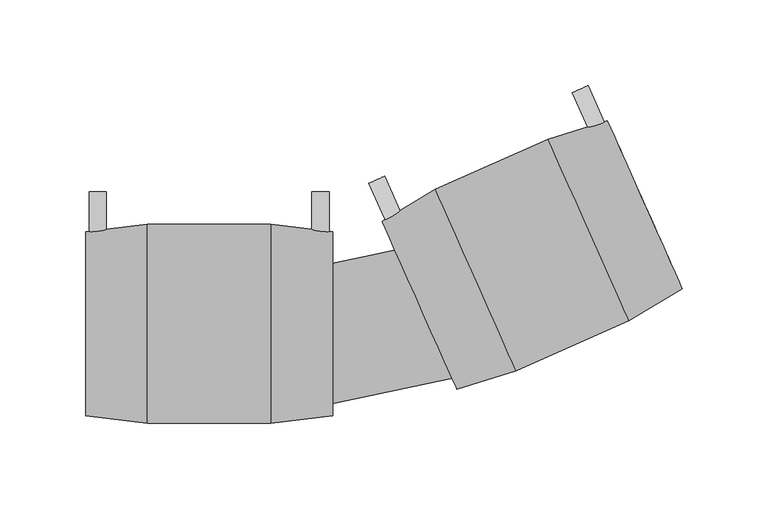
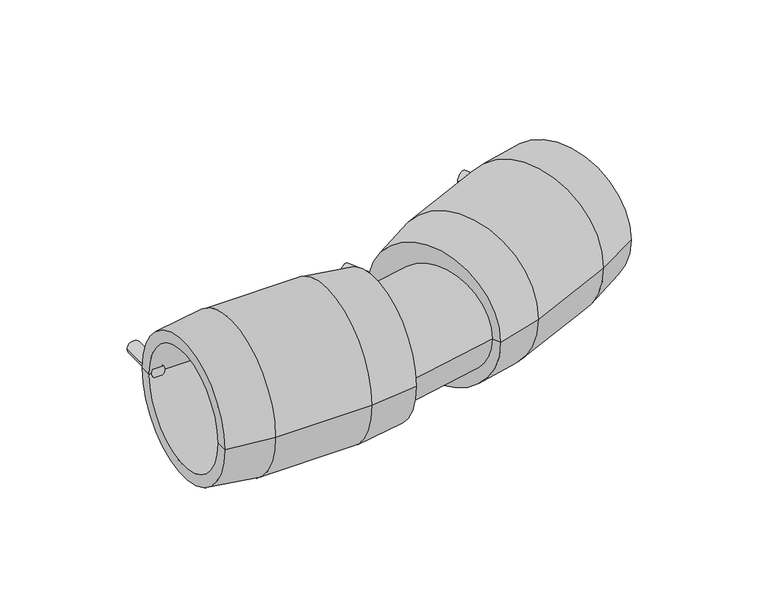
"""IFC4 building model written with IfcOpenShell, lengths in millimetres: pipe fitting geometry, Plumbing_Pipe-Fittings_Plasson_Adjustable-Elbow_4947C4 : Plumbing_Pipe-Fittings_Plasson_Adjustable-Elbow_4947C4."""

import ifcopenshell
import ifcopenshell.guid

model = None  # the IFC model being written
_history = None  # IfcOwnerHistory: only IFC2X3 demands one
_inside = {}  # id of a spatial element -> (the spatial element, [elements in it])
_under = {}  # id of a project, library or spatial element -> (it, [spatial elements below it])
_declared = {}  # id of a project -> (the project, [libraries it declares])
_typed = {}  # id of a type object -> (the type object, [elements of that type])
_made_of = {}  # id of a material, layer set ... -> (it, [elements and type objects made of it])


def new_model(schema):
    """Start an empty IFC model of exactly this schema.

    Asked for "IFC4X3", IfcOpenShell would pick the latest addendum, in which some entities
    have other attributes; the version numbers below select the first issue.
    IFC2X3 requires an IfcOwnerHistory on every rooted entity: one is made here for all.
    """
    global model, _history
    if schema == "IFC4X3":
        model = ifcopenshell.file(schema_version=(4, 3, 0, 0))
    else:
        model = ifcopenshell.file(schema=schema)
    _inside.clear()
    _under.clear()
    _declared.clear()
    _typed.clear()
    _made_of.clear()
    _history = None
    if model.schema == "IFC2X3":
        org = make("IfcOrganization", Name="unknown")
        user = make(
            "IfcPersonAndOrganization",
            ThePerson=make("IfcPerson", FamilyName="unknown"),
            TheOrganization=org,
        )
        app = make(
            "IfcApplication",
            ApplicationDeveloper=org,
            Version="unknown",
            ApplicationFullName="unknown",
            ApplicationIdentifier="unknown",
        )
        _history = make(
            "IfcOwnerHistory",
            OwningUser=user,
            OwningApplication=app,
            ChangeAction="ADDED",
            CreationDate=0,
        )
    return model


def make(cls, **values):
    """One entity of the class cls with the attributes given. An attribute that is None is left unset."""
    return model.create_entity(
        cls, **{name: value for name, value in values.items() if value is not None}
    )


def rooted(cls, **values):
    """An entity with a GlobalId (a new one), such as an element, a storey or a relation."""
    return make(cls, GlobalId=ifcopenshell.guid.new(), OwnerHistory=_history, **values)


def si_unit(unit_type, name, prefix=None):
    """IfcSIUnit, for example si_unit("LENGTHUNIT", "METRE", prefix="MILLI")."""
    return make("IfcSIUnit", UnitType=unit_type, Prefix=prefix, Name=name)


def assignment(units):
    """IfcUnitAssignment: the units of a project."""
    return None if units is None else make("IfcUnitAssignment", Units=units)


def point(xyz):
    """IfcCartesianPoint."""
    return None if xyz is None else make("IfcCartesianPoint", Coordinates=xyz)


def direction(xyz):
    """IfcDirection."""
    return None if xyz is None else make("IfcDirection", DirectionRatios=xyz)


def frame(location, z_axis=None, x_axis=None):
    """IfcAxis2Placement3D, a coordinate frame: its origin and axes. An axis left out is left unset."""
    return make(
        "IfcAxis2Placement3D",
        Location=point(location),
        Axis=direction(z_axis),
        RefDirection=direction(x_axis),
    )


def frame_2d(location, x_axis=None):
    """IfcAxis2Placement2D, a coordinate frame in the plane: its origin and x axis."""
    return make(
        "IfcAxis2Placement2D", Location=point(location), RefDirection=direction(x_axis)
    )


def origin():
    """The frame at (0, 0, 0) with its axes left unset."""
    return frame((0.0, 0.0, 0.0))


def place(relative_to, where):
    """IfcLocalPlacement: puts the frame where relative to a parent placement (None: the world)."""
    return make(
        "IfcLocalPlacement", PlacementRelTo=relative_to, RelativePlacement=where
    )


def context(
    kind, dimensions, precision=None, world=None, true_north=None, identifier=None
):
    """IfcGeometricRepresentationContext, for example the 3D "Model" context."""
    return make(
        "IfcGeometricRepresentationContext",
        ContextIdentifier=identifier,
        ContextType=kind,
        CoordinateSpaceDimension=dimensions,
        Precision=precision,
        WorldCoordinateSystem=world,
        TrueNorth=true_north,
    )


def project(units=None, contexts=None):
    """IfcProject with its units and contexts."""
    return rooted(
        "IfcProject",
        Name="project",
        RepresentationContexts=contexts,
        UnitsInContext=assignment(units),
    )


def spatial(cls, under=None, at=None, **own):
    """A site, building, storey or space (cls), placed at a placement, below another one or the project."""
    s = rooted(cls, ObjectPlacement=at, **own)
    if under is not None:
        _under.setdefault(under.id(), (under, []))[1].append(s)
    return s


def polyline(points):
    """IfcPolyline through the points."""
    return make("IfcPolyline", Points=[point(p) for p in points])


def circle_curve(where, radius):
    """IfcCircle in the frame where."""
    return make("IfcCircle", Position=where, Radius=radius)


def trimmed(basis, trim1, trim2, sense, master):
    """IfcTrimmedCurve: the piece of a basis curve between two trims."""
    return make(
        "IfcTrimmedCurve",
        BasisCurve=basis,
        Trim1=trim1,
        Trim2=trim2,
        SenseAgreement=sense,
        MasterRepresentation=master,
    )


def segment(curve, same_sense, transition):
    """IfcCompositeCurveSegment."""
    return make(
        "IfcCompositeCurveSegment",
        Transition=transition,
        SameSense=same_sense,
        ParentCurve=curve,
    )


def composite_curve(segments, self_intersect=None):
    """IfcCompositeCurve: segments joined end to end."""
    return make("IfcCompositeCurve", Segments=segments, SelfIntersect=self_intersect)


def outline(outer, holes=None, kind="AREA"):
    """IfcArbitraryClosedProfileDef: a profile drawn as a closed curve; with holes, ...WithVoids."""
    if holes is None:
        return make("IfcArbitraryClosedProfileDef", ProfileType=kind, OuterCurve=outer)
    return make(
        "IfcArbitraryProfileDefWithVoids",
        ProfileType=kind,
        OuterCurve=outer,
        InnerCurves=holes,
    )


def extrude(swept, where, along, depth):
    """IfcExtrudedAreaSolid: the profile swept, set in the frame where, extruded along a direction by depth."""
    return make(
        "IfcExtrudedAreaSolid",
        SweptArea=swept,
        Position=where,
        ExtrudedDirection=direction(along),
        Depth=depth,
    )


def shape(context_of_items, identifier, shape_type, items):
    """IfcShapeRepresentation: the items that make up one representation, for example the "Body"."""
    return make(
        "IfcShapeRepresentation",
        ContextOfItems=context_of_items,
        RepresentationIdentifier=identifier,
        RepresentationType=shape_type,
        Items=items,
    )


def source(mapping_origin, context_of_items, identifier, shape_type, items):
    """IfcRepresentationMap: a shape defined once, which mapped items show again and again."""
    return make(
        "IfcRepresentationMap",
        MappingOrigin=mapping_origin,
        MappedRepresentation=shape(context_of_items, identifier, shape_type, items),
    )


def transform(
    local_origin,
    x_axis=None,
    y_axis=None,
    z_axis=None,
    scale=None,
    scale2=None,
    scale3=None,
    uniform=True,
):
    """IfcCartesianTransformationOperator3D, or its non-uniform kind. x_axis, y_axis, z_axis: its Axis1, 2, 3."""
    if uniform:
        return make(
            "IfcCartesianTransformationOperator3D",
            Axis1=direction(x_axis),
            Axis2=direction(y_axis),
            LocalOrigin=point(local_origin),
            Scale=scale,
            Axis3=direction(z_axis),
        )
    return make(
        "IfcCartesianTransformationOperator3DnonUniform",
        Axis1=direction(x_axis),
        Axis2=direction(y_axis),
        LocalOrigin=point(local_origin),
        Scale=scale,
        Axis3=direction(z_axis),
        Scale2=scale2,
        Scale3=scale3,
    )


def mapped(mapping_source, mapping_target):
    """IfcMappedItem: shows the shape of a source again, moved by a transform."""
    return make(
        "IfcMappedItem", MappingSource=mapping_source, MappingTarget=mapping_target
    )


def made_of(thing, what):
    """Note that an element or type object is made of a material, layer set ...; save() writes the relation."""
    if what is not None:
        _made_of.setdefault(what.id(), (what, []))[1].append(thing)
    return thing


def element(
    cls,
    number,
    at=None,
    inside=None,
    cuts=None,
    type_object=None,
    material=None,
    context=None,
    identifier="Body",
    shape_type=None,
    held_by="IfcProductDefinitionShape",
    body=None,
    shapes=None,
    **own,
):
    """One element of the class cls, such as IfcWall. Its Tag is "e" and its number.

    at: its placement. inside: the storey or other place that contains it. cuts: it is an
    opening in that element (IfcRelVoidsElement). A single representation is given by context,
    identifier, shape_type and body (its items); several are given by shapes. held_by: the class
    of the entity that holds the representations. save() writes the other relations.
    """
    e = rooted(cls, Tag="e%d" % number, ObjectPlacement=at, **own)
    if body is not None:
        shapes = [shape(context, identifier, shape_type, body)]
    if shapes is not None:
        e.Representation = make(held_by, Representations=shapes)
    if inside is not None:
        _inside.setdefault(inside.id(), (inside, []))[1].append(e)
    if cuts is not None:
        rooted(
            "IfcRelVoidsElement", RelatingBuildingElement=cuts, RelatedOpeningElement=e
        )
    if type_object is not None:
        _typed.setdefault(type_object.id(), (type_object, []))[1].append(e)
    return made_of(e, material)


def aggregate(whole, parts):
    """IfcRelAggregates: a whole, such as a stair, and the parts it consists of."""
    return rooted("IfcRelAggregates", RelatingObject=whole, RelatedObjects=parts)


def save(model, path):
    """Write the relations noted so far, then the file.

    IfcRelAggregates (storeys below a building ...), IfcRelContainedInSpatialStructure (elements
    in a storey), IfcRelDefinesByType, IfcRelAssociatesMaterial and IfcRelDeclares: one each for
    every whole, place, type object, material and project.
    """
    for whole, parts in _under.values():
        aggregate(whole, parts)
    for where, things in _inside.values():
        rooted(
            "IfcRelContainedInSpatialStructure",
            RelatedElements=things,
            RelatingStructure=where,
        )
    for kind, things in _typed.values():
        rooted("IfcRelDefinesByType", RelatedObjects=things, RelatingType=kind)
    for what, things in _made_of.values():
        rooted("IfcRelAssociatesMaterial", RelatedObjects=things, RelatingMaterial=what)
    for by, libraries in _declared.values():
        rooted("IfcRelDeclares", RelatingContext=by, RelatedDefinitions=libraries)
    model.write(path)


def plane_surface(at):
    """IfcPlane: the flat surface through the origin of the frame at, square to its z axis."""
    return make("IfcPlane", Position=at)


def cylinder_surface(at, radius):
    """IfcCylindricalSurface: all points at the distance radius from the z axis of the frame at."""
    return make("IfcCylindricalSurface", Position=at, Radius=radius)


def revolved_surface(curve, axis_point, axis_direction):
    """IfcSurfaceOfRevolution: the curve turned about the line through axis_point along axis_direction."""
    return make(
        "IfcSurfaceOfRevolution",
        SweptCurve=make("IfcArbitraryOpenProfileDef", ProfileType="CURVE", Curve=curve),
        AxisPosition=make("IfcAxis1Placement", Location=point(axis_point), Axis=direction(axis_direction)),
    )


def advanced_brep(points, edges, surfaces, faces):
    """IfcAdvancedBrep: a solid bounded by faces that lie on surfaces and meet in shared edges.

    An edge is (start, end): straight between two places in points (the first is 0);
    or (start, end, curve); or (start, end, curve, False) where it runs against its curve.
    A face is (place in surfaces, loops), or (place, loops, False) where it looks against
    its surface's normal. A loop lists edges by number (the first is 1), with a minus sign
    where the edge is run from its end to its start. The first loop is the outer one.
    """
    corners = [point(p) for p in points]
    vertices = [make("IfcVertexPoint", VertexGeometry=c) for c in corners]
    made = []
    for start, end, *more in edges:
        made.append(
            make(
                "IfcEdgeCurve",
                EdgeStart=vertices[start],
                EdgeEnd=vertices[end],
                EdgeGeometry=more[0] if more else make("IfcPolyline", Points=[corners[start], corners[end]]),
                SameSense=more[1] if len(more) > 1 else True,
            )
        )
    hull = []
    for where, loops, *sense in faces:
        bounds = []
        for j, loop in enumerate(loops):
            ring = [make("IfcOrientedEdge", EdgeElement=made[abs(k) - 1], Orientation=k > 0) for k in loop]
            bounds.append(
                make(
                    "IfcFaceOuterBound" if j == 0 else "IfcFaceBound",
                    Bound=make("IfcEdgeLoop", EdgeList=ring),
                    Orientation=True,
                )
            )
        hull.append(make("IfcAdvancedFace", Bounds=bounds, FaceSurface=surfaces[where], SameSense=sense[0] if sense else True))
    return make("IfcAdvancedBrep", Outer=make("IfcClosedShell", CfsFaces=hull))


def pipe_fitting_4f1da88c(model_context):
    return source(origin(), model_context, "Body", "SolidModel", [
        advanced_brep(
        [(-58.3931987, -53.3054813, 0.0), (-75.026134, 24.9463267, 0.0), (58.3931987, 53.3054813, 0.0), (75.026134, -24.9463267, 0.0), (-66.7096664, -14.1795773, 0.0), (66.7096664, 14.1795773, 0.0)],
        [
            (0, 1, circle_curve(frame((-66.7096664, -14.1795773, 0.0), z_axis=(0.9781476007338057, 0.20791169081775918, 0.0), x_axis=(-0.20791169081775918, 0.9781476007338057, 0.0)), 40.0)),
            (1, 2),
            (2, 3, circle_curve(frame((66.7096664, 14.1795773, 0.0), z_axis=(-0.9781476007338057, -0.20791169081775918, 0.0), x_axis=(-0.20791169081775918, 0.9781476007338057, 0.0)), 40.0)),
            (3, 0),
            (1, 0, circle_curve(frame((-66.7096664, -14.1795773, 0.0), z_axis=(0.9781476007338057, 0.20791169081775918, 0.0), x_axis=(-0.20791169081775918, 0.9781476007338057, 0.0)), 40.0)),
            (3, 2, circle_curve(frame((66.7096664, 14.1795773, 0.0), z_axis=(-0.9781476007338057, -0.20791169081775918, 0.0), x_axis=(-0.20791169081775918, 0.9781476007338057, 0.0)), 40.0)),
            (4, 1),
            (0, 4),
            (2, 5),
            (5, 3),
        ],
        [
            cylinder_surface(frame((65.5784812, 13.9391365, 0.0), z_axis=(-0.9781476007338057, -0.20791169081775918, 0.0), x_axis=(-0.20791169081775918, 0.9781476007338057, 0.0)), 40.0),
            plane_surface(frame((-66.7096664, -14.1795773, 0.0), z_axis=(-0.9781476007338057, -0.20791169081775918, 0.0), x_axis=(-0.20791169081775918, 0.9781476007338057, 0.0))),
            plane_surface(frame((66.7096664, 14.1795773, 0.0), z_axis=(0.9781476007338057, 0.20791169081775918, 0.0), x_axis=(-0.20791169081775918, 0.9781476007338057, 0.0))),
        ],
        [
            (0, [[1, 2, 3, 4]]),
            (0, [[5, -4, 6, -2]]),
            (1, [[7, -1, 8]]),
            (1, [[-8, -5, -7]]),
            (2, [[-3, 9, 10]]),
            (2, [[-6, -10, -9]]),
        ],
    ),
        extrude(outline(composite_curve([segment(trimmed(circle_curve(frame_2d((0.0, -163.5)), 5.0), [point((0.0, -168.5))], [point((0.0, -158.5))], False, "CARTESIAN"), True, "CONTINUOUS"), segment(trimmed(circle_curve(frame_2d((0.0, -163.5)), 5.0), [point((0.0, -158.5))], [point((0.0, -168.5))], False, "CARTESIAN"), True, "CONTINUOUS")], self_intersect=False)), frame((0.0, 45.0, 0.0), z_axis=(0.0, 1.0, 0.0), x_axis=(0.0, 0.0, 1.0)), (0.0, 0.0, 1.0), 32.0),
        extrude(outline(composite_curve([segment(trimmed(circle_curve(frame_2d((0.0, -33.5)), 5.0), [point((0.0, -38.5))], [point((0.0, -28.5))], False, "CARTESIAN"), True, "CONTINUOUS"), segment(trimmed(circle_curve(frame_2d((0.0, -33.5)), 5.0), [point((0.0, -28.5))], [point((0.0, -38.5))], False, "CARTESIAN"), True, "CONTINUOUS")], self_intersect=False)), frame((0.0, 45.0, 0.0), z_axis=(0.0, 1.0, 0.0), x_axis=(0.0, 0.0, 1.0)), (0.0, 0.0, 1.0), 32.0),
        extrude(outline(composite_curve([segment(trimmed(circle_curve(frame_2d((0.0, -5.0)), 5.0), [point((0.0, -10.0))], [point((0.0, 0.0))], False, "CARTESIAN"), True, "CONTINUOUS"), segment(trimmed(circle_curve(frame_2d((0.0, -5.0)), 5.0), [point((0.0, 0.0))], [point((0.0, -10.0))], False, "CARTESIAN"), True, "CONTINUOUS")], self_intersect=False)), frame((16.8683512, 56.7689064, 0.0), z_axis=(-0.4067366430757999, 0.9135454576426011, 0.0), x_axis=(0.0, 0.0, 1.0)), (0.0, 0.0, 1.0), 32.0),
        extrude(outline(composite_curve([segment(trimmed(circle_curve(frame_2d((0.0, 125.0)), 5.0), [point((0.0, 120.0))], [point((0.0, 130.0))], False, "CARTESIAN"), True, "CONTINUOUS"), segment(trimmed(circle_curve(frame_2d((0.0, 125.0)), 5.0), [point((0.0, 130.0))], [point((0.0, 120.0))], False, "CARTESIAN"), True, "CONTINUOUS")], self_intersect=False)), frame((16.8683512, 56.7689064, 0.0), z_axis=(-0.4067366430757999, 0.9135454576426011, 0.0), x_axis=(0.0, 0.0, 1.0)), (0.0, 0.0, 1.0), 32.0),
        advanced_brep(
        [(177.5877004, 20.3216581, 0.0), (133.9313007, 118.3755372, 0.0), (137.4563516, 110.4581432, 0.0), (174.0626495, 28.2390521, 0.0), (146.4625894, 1.720442, 0.0), (99.2811388, 107.691715, 0.0), (80.6873164, -27.5645964, 0.0), (33.5058658, 78.4066767, 0.0), (46.0371545, -38.2484185, 0.0), (2.3807548, 59.8054606, 0.0), (24.2089546, 10.778521, 0.0), (71.6810786, 81.1731049, 0.0), (108.2873765, -1.0459863, 0.0), (89.9842276, 40.0635593, 0.0)],
        [
            (0, 1, circle_curve(frame((155.7595005, 69.3485976, 0.0), z_axis=(0.9135454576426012, 0.4067366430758, 0.0), x_axis=(-0.4067366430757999, 0.913545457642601, 0.0)), 53.6666667)),
            (1, 2),
            (2, 3, circle_curve(frame((155.7595005, 69.3485976, 0.0), z_axis=(-0.9135454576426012, -0.4067366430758, 0.0), x_axis=(-0.4067366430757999, 0.913545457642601, 0.0)), 45.0)),
            (3, 0),
            (1, 0, circle_curve(frame((155.7595005, 69.3485976, 0.0), z_axis=(0.9135454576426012, 0.4067366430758, 0.0), x_axis=(-0.4067366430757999, 0.913545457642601, 0.0)), 53.6666667)),
            (3, 2, circle_curve(frame((155.7595005, 69.3485976, 0.0), z_axis=(-0.9135454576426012, -0.4067366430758, 0.0), x_axis=(-0.4067366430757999, 0.913545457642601, 0.0)), 45.0)),
            (4, 5, circle_curve(frame((122.8718641, 54.7060785, 0.0), z_axis=(0.9135454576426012, 0.4067366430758, 0.0), x_axis=(-0.4067366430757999, 0.913545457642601, 0.0)), 58.0)),
            (5, 1),
            (0, 4),
            (5, 4, circle_curve(frame((122.8718641, 54.7060785, 0.0), z_axis=(0.9135454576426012, 0.4067366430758, 0.0), x_axis=(-0.4067366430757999, 0.913545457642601, 0.0)), 58.0)),
            (6, 7, circle_curve(frame((57.0965911, 25.4210402, 0.0), z_axis=(0.9135454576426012, 0.4067366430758, 0.0), x_axis=(-0.4067366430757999, 0.913545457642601, 0.0)), 58.0)),
            (7, 5),
            (4, 6),
            (7, 6, circle_curve(frame((57.0965911, 25.4210402, 0.0), z_axis=(0.9135454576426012, 0.4067366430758, 0.0), x_axis=(-0.4067366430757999, 0.913545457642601, 0.0)), 58.0)),
            (8, 9, circle_curve(frame((24.2089546, 10.778521, 0.0), z_axis=(0.9135454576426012, 0.4067366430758, 0.0), x_axis=(-0.4067366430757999, 0.913545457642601, 0.0)), 53.6666667)),
            (9, 7),
            (6, 8),
            (9, 8, circle_curve(frame((24.2089546, 10.778521, 0.0), z_axis=(0.9135454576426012, 0.4067366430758, 0.0), x_axis=(-0.4067366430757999, 0.913545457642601, 0.0)), 53.6666667)),
            (10, 9),
            (8, 10),
            (2, 11),
            (11, 12, circle_curve(frame((89.9842276, 40.0635593, 0.0), z_axis=(-0.9135454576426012, -0.4067366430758, 0.0), x_axis=(-0.4067366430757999, 0.913545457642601, 0.0)), 45.0)),
            (12, 3),
            (12, 11, circle_curve(frame((89.9842276, 40.0635593, 0.0), z_axis=(-0.9135454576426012, -0.4067366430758, 0.0), x_axis=(-0.4067366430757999, 0.913545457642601, 0.0)), 45.0)),
            (11, 13),
            (13, 12),
        ],
        [
            plane_surface(frame((155.7595005, 69.3485976, 0.0), z_axis=(0.9135454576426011, 0.40673664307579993, 0.0), x_axis=(-0.40673664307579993, 0.9135454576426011, 0.0))),
            revolved_surface(polyline([(133.9313007, 118.3755372, 0.0), (99.2811388, 107.691715, 0.0)]), (24.2089546, 10.778521, 0.0), (-0.913545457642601, -0.4067366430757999, 0.0)),
            cylinder_surface(frame((24.2089546, 10.778521, 0.0), z_axis=(-0.913545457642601, -0.4067366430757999, 0.0), x_axis=(-0.4067366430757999, 0.913545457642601, 0.0)), 58.0),
            revolved_surface(polyline([(33.5058658, 78.4066767, 0.0), (2.3807548, 59.8054606, 0.0)]), (24.2089546, 10.778521, 0.0), (-0.913545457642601, -0.4067366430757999, 0.0)),
            plane_surface(frame((24.2089546, 10.778521, 0.0), z_axis=(-0.9135454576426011, -0.40673664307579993, 0.0), x_axis=(-0.40673664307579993, 0.9135454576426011, 0.0))),
            revolved_surface(polyline([(71.68107860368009, 81.17310489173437, 0.0), (137.45635164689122, 110.45814323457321, 0.0)]), (24.2089546, 10.778521, 0.0), (-0.913545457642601, -0.4067366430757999, 0.0)),
            plane_surface(frame((89.9842276, 40.0635593, 0.0), z_axis=(0.9135454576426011, 0.40673664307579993, 0.0), x_axis=(-0.40673664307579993, 0.9135454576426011, 0.0))),
        ],
        [
            (0, [[1, 2, 3, 4]]),
            (0, [[5, -4, 6, -2]]),
            (1, [[7, 8, -1, 9]]),
            (1, [[10, -9, -5, -8]]),
            (2, [[11, 12, -7, 13]]),
            (2, [[14, -13, -10, -12]]),
            (3, [[15, 16, -11, 17]]),
            (3, [[18, -17, -14, -16]]),
            (4, [[19, -15, 20]]),
            (4, [[-20, -18, -19]]),
            (5, [[-3, 21, 22, 23]]),
            (5, [[-6, -23, 24, -21]]),
            (6, [[-22, 25, 26]]),
            (6, [[-24, -26, -25]]),
        ],
    ),
        advanced_brep(
        [(-26.5, -53.6666667, 0.0), (-26.5, 53.6666667, 0.0), (-26.5, 0.0, 0.0), (-134.5, -58.0, 0.0), (-134.5, 58.0, 0.0), (-62.5, 58.0, 0.0), (-62.5, -58.0, 0.0), (-170.5, -45.0, 0.0), (-170.5, 45.0, 0.0), (-170.5, 53.6666667, 0.0), (-170.5, -53.6666667, 0.0), (-98.5, -45.0, 0.0), (-98.5, 45.0, 0.0), (-98.5, 0.0, 0.0)],
        [
            (0, 1, circle_curve(frame((-26.5, 0.0, 0.0), z_axis=(1.0, 0.0, 0.0), x_axis=(0.0, 1.0, 0.0)), 53.6666667)),
            (1, 2),
            (2, 0),
            (1, 0, circle_curve(frame((-26.5, 0.0, 0.0), z_axis=(1.0, 0.0, 0.0), x_axis=(0.0, 1.0, 0.0)), 53.6666667)),
            (3, 4, circle_curve(frame((-134.5, 0.0, 0.0), z_axis=(1.0, 0.0, 0.0), x_axis=(0.0, 1.0, 0.0)), 58.0)),
            (4, 5),
            (5, 6, circle_curve(frame((-62.5, 0.0, 0.0), z_axis=(-1.0, 0.0, 0.0), x_axis=(0.0, 1.0, 0.0)), 58.0)),
            (6, 3),
            (4, 3, circle_curve(frame((-134.5, 0.0, 0.0), z_axis=(1.0, 0.0, 0.0), x_axis=(0.0, 1.0, 0.0)), 58.0)),
            (6, 5, circle_curve(frame((-62.5, 0.0, 0.0), z_axis=(-1.0, 0.0, 0.0), x_axis=(0.0, 1.0, 0.0)), 58.0)),
            (7, 8, circle_curve(frame((-170.5, 0.0, 0.0), z_axis=(1.0, 0.0, 0.0), x_axis=(0.0, 1.0, 0.0)), 45.0)),
            (8, 9),
            (9, 10, circle_curve(frame((-170.5, 0.0, 0.0), z_axis=(-1.0, 0.0, 0.0), x_axis=(0.0, 1.0, 0.0)), 53.6666667)),
            (10, 7),
            (8, 7, circle_curve(frame((-170.5, 0.0, 0.0), z_axis=(1.0, 0.0, 0.0), x_axis=(0.0, 1.0, 0.0)), 45.0)),
            (10, 9, circle_curve(frame((-170.5, 0.0, 0.0), z_axis=(-1.0, 0.0, 0.0), x_axis=(0.0, 1.0, 0.0)), 53.6666667)),
            (11, 12, circle_curve(frame((-98.5, 0.0, 0.0), z_axis=(1.0, 0.0, 0.0), x_axis=(0.0, 1.0, 0.0)), 45.0)),
            (12, 8),
            (7, 11),
            (12, 11, circle_curve(frame((-98.5, 0.0, 0.0), z_axis=(1.0, 0.0, 0.0), x_axis=(0.0, 1.0, 0.0)), 45.0)),
            (5, 1),
            (0, 6),
            (9, 4),
            (3, 10),
            (13, 12),
            (11, 13),
        ],
        [
            plane_surface(frame((-26.5, 0.0, 0.0), z_axis=(1.0, 0.0, 0.0), x_axis=(0.0, 1.0, 0.0))),
            cylinder_surface(frame((-161.4058111, 0.0, 0.0), z_axis=(-1.0, 0.0, 0.0), x_axis=(0.0, 1.0, 0.0)), 58.0),
            plane_surface(frame((-170.5, 0.0, 0.0), z_axis=(-1.0, 0.0, 0.0), x_axis=(0.0, 1.0, 0.0))),
            revolved_surface(polyline([(-170.5, 45.0, 0.0), (-98.5, 45.0, 0.0)]), (-161.4058111, 0.0, 0.0), (-1.0, 0.0, 0.0)),
            revolved_surface(polyline([(-26.5, 53.6666667, 0.0), (-62.5, 58.0, 0.0)]), (-161.4058111, 0.0, 0.0), (-1.0, 0.0, 0.0)),
            revolved_surface(polyline([(-134.5, 58.0, 0.0), (-170.5, 53.6666667, 0.0)]), (-161.4058111, 0.0, 0.0), (-1.0, 0.0, 0.0)),
            plane_surface(frame((-98.5, 0.0, 0.0), z_axis=(-1.0, 0.0, 0.0), x_axis=(0.0, 1.0, 0.0))),
        ],
        [
            (0, [[1, 2, 3]]),
            (0, [[4, -3, -2]]),
            (1, [[5, 6, 7, 8]]),
            (1, [[9, -8, 10, -6]]),
            (2, [[11, 12, 13, 14]]),
            (2, [[15, -14, 16, -12]]),
            (3, [[17, 18, -11, 19]]),
            (3, [[20, -19, -15, -18]]),
            (4, [[-7, 21, -1, 22]]),
            (4, [[-10, -22, -4, -21]]),
            (5, [[-13, 23, -5, 24]]),
            (5, [[-16, -24, -9, -23]]),
            (6, [[25, -17, 26]]),
            (6, [[-26, -20, -25]]),
        ],
    ),
    ])


if __name__ == "__main__":
    model = new_model("IFC4")
    model_context = context("Model", 3, world=origin())
    ifc_project = project(units=[si_unit("LENGTHUNIT", "METRE", prefix="MILLI")], contexts=[model_context])
    site = spatial("IfcSite", under=ifc_project)
    building = spatial("IfcBuilding", under=site)
    placement = place(None, origin())
    pipe_fitting_shape = pipe_fitting_4f1da88c(model_context)
    element("IfcPipeFitting", 1, ObjectType="Plumbing_Pipe-Fittings_Plasson_Adjustable-Elbow_4947C4 : Plumbing_Pipe-Fittings_Plasson_Adjustable-Elbow_4947C4", at=placement, inside=building, context=model_context, shape_type="MappedRepresentation", body=[
        mapped(pipe_fitting_shape, transform((0.0, 0.0, 0.0), x_axis=(1.0, 0.0, 0.0), y_axis=(0.0, 1.0, 0.0), z_axis=(0.0, 0.0, 1.0))),
    ])
    save(model, "model.ifc")
